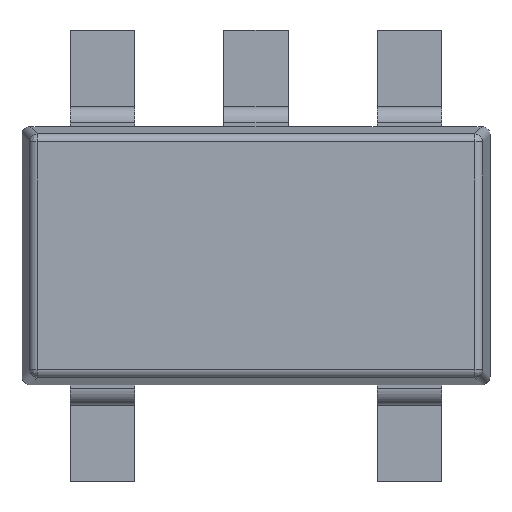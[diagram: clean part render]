
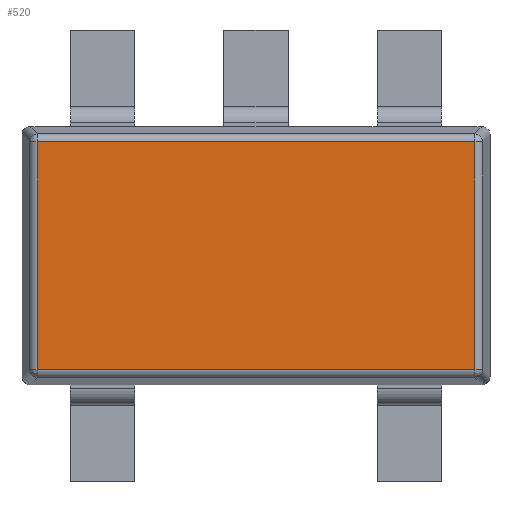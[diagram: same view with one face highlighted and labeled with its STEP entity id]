
A CAD part, top view. The second image highlights one B-rep face of the part: STEP entity #520.
In plain terms, the highlighted planar face has unit normal (0, 0, 1).
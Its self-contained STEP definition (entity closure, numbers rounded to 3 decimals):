
#43 = VECTOR ( 'NONE', #274, 1000. ) ;
#109 = LINE ( 'NONE', #1560, #3015 ) ;
#227 = EDGE_CURVE ( 'NONE', #2755, #777, #109, .T. ) ;
#243 = CARTESIAN_POINT ( 'NONE',  ( -1.355, -0.705, 1.15 ) ) ;
#254 = ORIENTED_EDGE ( 'NONE', *, *, #2831, .F. ) ;
#274 = DIRECTION ( 'NONE',  ( -1., 0., 0. ) ) ;
#375 = EDGE_CURVE ( 'NONE', #1126, #1415, #2338, .T. ) ;
#391 = DIRECTION ( 'NONE',  ( -1., 0., 0. ) ) ;
#397 = DIRECTION ( 'NONE',  ( 0., 0., -1. ) ) ;
#401 = CARTESIAN_POINT ( 'NONE',  ( -1.45, 0.8, 1.15 ) ) ;
#402 = FACE_OUTER_BOUND ( 'NONE', #1058, .T. ) ;
#444 = AXIS2_PLACEMENT_3D ( 'NONE', #401, #397, #391 ) ;
#499 = PLANE ( 'NONE',  #444 ) ;
#520 = ADVANCED_FACE ( 'NONE', ( #402 ), #499, .F. ) ;
#579 = CARTESIAN_POINT ( 'NONE',  ( 1.355, 0.705, 1.15 ) ) ;
#777 = VERTEX_POINT ( 'NONE', #3130 ) ;
#831 = DIRECTION ( 'NONE',  ( 1., 0., 0. ) ) ;
#1058 = EDGE_LOOP ( 'NONE', ( #2326, #2891, #254, #1607 ) ) ;
#1080 = LINE ( 'NONE', #1921, #1666 ) ;
#1099 = DIRECTION ( 'NONE',  ( 0., -1., 0. ) ) ;
#1126 = VERTEX_POINT ( 'NONE', #579 ) ;
#1139 = CARTESIAN_POINT ( 'NONE',  ( 1.355, 0.8, 1.15 ) ) ;
#1246 = CARTESIAN_POINT ( 'NONE',  ( 1.355, -0.705, 1.15 ) ) ;
#1415 = VERTEX_POINT ( 'NONE', #1246 ) ;
#1524 = DIRECTION ( 'NONE',  ( 0., 1., 0. ) ) ;
#1560 = CARTESIAN_POINT ( 'NONE',  ( -1.355, 0.8, 1.15 ) ) ;
#1607 = ORIENTED_EDGE ( 'NONE', *, *, #375, .F. ) ;
#1666 = VECTOR ( 'NONE', #831, 1000. ) ;
#1921 = CARTESIAN_POINT ( 'NONE',  ( -1.45, 0.705, 1.15 ) ) ;
#2326 = ORIENTED_EDGE ( 'NONE', *, *, #2806, .F. ) ;
#2338 = LINE ( 'NONE', #1139, #2419 ) ;
#2419 = VECTOR ( 'NONE', #1099, 1000. ) ;
#2646 = LINE ( 'NONE', #3226, #43 ) ;
#2755 = VERTEX_POINT ( 'NONE', #243 ) ;
#2806 = EDGE_CURVE ( 'NONE', #777, #1126, #1080, .T. ) ;
#2831 = EDGE_CURVE ( 'NONE', #1415, #2755, #2646, .T. ) ;
#2891 = ORIENTED_EDGE ( 'NONE', *, *, #227, .F. ) ;
#3015 = VECTOR ( 'NONE', #1524, 1000. ) ;
#3130 = CARTESIAN_POINT ( 'NONE',  ( -1.355, 0.705, 1.15 ) ) ;
#3226 = CARTESIAN_POINT ( 'NONE',  ( -1.45, -0.705, 1.15 ) ) ;
